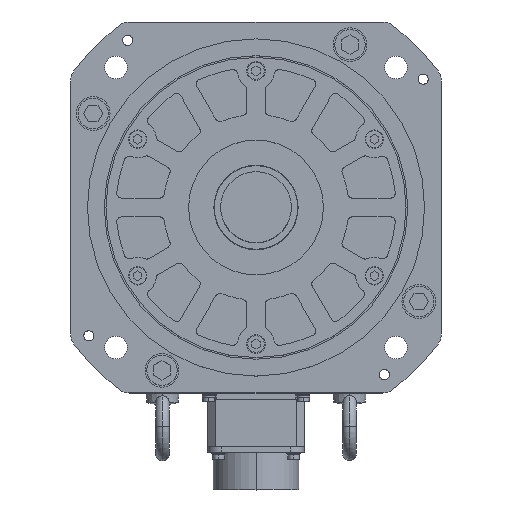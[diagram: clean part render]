
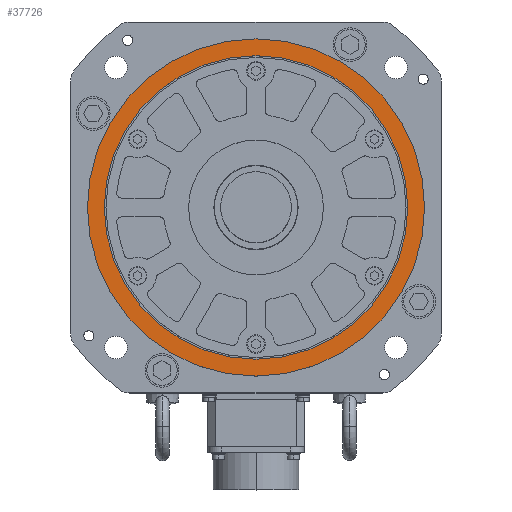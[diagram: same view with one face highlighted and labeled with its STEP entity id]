
A CAD part, top view. The second image highlights one B-rep face of the part: STEP entity #37726.
In plain terms, the highlighted planar face has unit normal (0, 0, 1).
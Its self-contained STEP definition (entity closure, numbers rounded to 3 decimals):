
#495 = CARTESIAN_POINT ( 'NONE',  ( 90., 0., 4. ) ) ;
#632 = CARTESIAN_POINT ( 'NONE',  ( -90., 0., 4. ) ) ;
#1406 = CIRCLE ( 'NONE', #1475, 90. ) ;
#1472 = DIRECTION ( 'NONE',  ( 1., 0., 0. ) ) ;
#1473 = DIRECTION ( 'NONE',  ( 0., 0., 1. ) ) ;
#1474 = CARTESIAN_POINT ( 'NONE',  ( 0., 0., 4. ) ) ;
#1475 = AXIS2_PLACEMENT_3D ( 'NONE', #1474, #1473, #1472 ) ;
#12331 = CARTESIAN_POINT ( 'NONE',  ( -100., 0., 4. ) ) ;
#12587 = CARTESIAN_POINT ( 'NONE',  ( 0., 0., 4. ) ) ;
#12589 = AXIS2_PLACEMENT_3D ( 'NONE', #12587, #12723, #12721 ) ;
#12598 = CIRCLE ( 'NONE', #12589, 100. ) ;
#12609 = CARTESIAN_POINT ( 'NONE',  ( 100., 0., 4. ) ) ;
#12721 = DIRECTION ( 'NONE',  ( 1., 0., 0. ) ) ;
#12723 = DIRECTION ( 'NONE',  ( 0., 0., 1. ) ) ;
#16085 = CARTESIAN_POINT ( 'NONE',  ( 0., 0., 4. ) ) ;
#16233 = DIRECTION ( 'NONE',  ( 1., 0., 0. ) ) ;
#16235 = DIRECTION ( 'NONE',  ( 0., 0., 1. ) ) ;
#16237 = AXIS2_PLACEMENT_3D ( 'NONE', #16085, #16235, #16233 ) ;
#16238 = CIRCLE ( 'NONE', #16237, 100. ) ;
#16384 = DIRECTION ( 'NONE',  ( 1., 0., 0. ) ) ;
#16386 = DIRECTION ( 'NONE',  ( 0., 0., 1. ) ) ;
#16388 = CARTESIAN_POINT ( 'NONE',  ( 0., 0., 4. ) ) ;
#16390 = AXIS2_PLACEMENT_3D ( 'NONE', #16388, #16386, #16384 ) ;
#16391 = PLANE ( 'NONE',  #16390 ) ;
#16395 = FACE_BOUND ( 'NONE', #38186, .T. ) ;
#16397 = FACE_OUTER_BOUND ( 'NONE', #37681, .T. ) ;
#18825 = DIRECTION ( 'NONE',  ( 1., 0., 0. ) ) ;
#18826 = DIRECTION ( 'NONE',  ( 0., 0., 1. ) ) ;
#18827 = CARTESIAN_POINT ( 'NONE',  ( 0., 0., 4. ) ) ;
#18828 = AXIS2_PLACEMENT_3D ( 'NONE', #18827, #18826, #18825 ) ;
#18829 = CIRCLE ( 'NONE', #18828, 90. ) ;
#24043 = VERTEX_POINT ( 'NONE', #495 ) ;
#24127 = VERTEX_POINT ( 'NONE', #632 ) ;
#24576 = EDGE_CURVE ( 'NONE', #24127, #24043, #1406, .T. ) ;
#36751 = VERTEX_POINT ( 'NONE', #12331 ) ;
#36825 = VERTEX_POINT ( 'NONE', #12609 ) ;
#36832 = EDGE_CURVE ( 'NONE', #36825, #36751, #12598, .T. ) ;
#37637 = ORIENTED_EDGE ( 'NONE', *, *, #37652, .T. ) ;
#37640 = ORIENTED_EDGE ( 'NONE', *, *, #36832, .T. ) ;
#37652 = EDGE_CURVE ( 'NONE', #36751, #36825, #16238, .T. ) ;
#37681 = EDGE_LOOP ( 'NONE', ( #37637, #37640 ) ) ;
#37726 = ADVANCED_FACE ( 'NONE', ( #16397, #16395 ), #16391, .T. ) ;
#38186 = EDGE_LOOP ( 'NONE', ( #38437, #38372 ) ) ;
#38372 = ORIENTED_EDGE ( 'NONE', *, *, #24576, .F. ) ;
#38435 = EDGE_CURVE ( 'NONE', #24043, #24127, #18829, .T. ) ;
#38437 = ORIENTED_EDGE ( 'NONE', *, *, #38435, .F. ) ;
